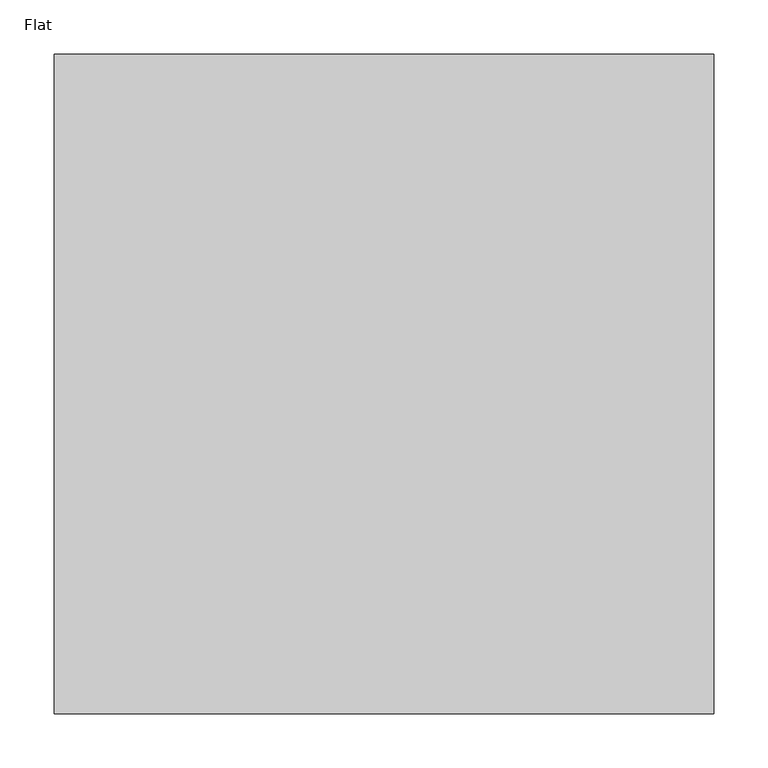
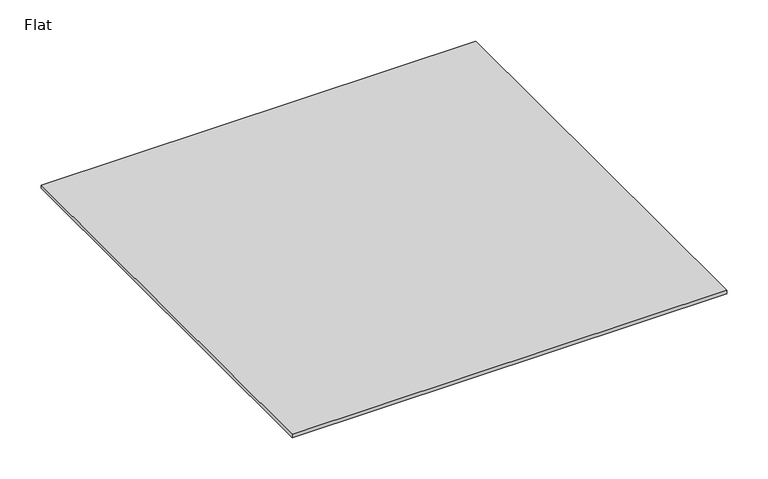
"""IFC4 building model written with IfcOpenShell, lengths in millimetres: proxy geometry, Ceiling_Tile-Qwel-Flat : Flat."""

from ifc_helpers import new_model, si_unit, origin, origin_with_axes, place, context, project, spatial, polyline, outline, extrude, source, transform, mapped, element, save


def flat_83722d0f(model_context):
    return source(origin(), model_context, "Body", "SweptSolid", [
        extrude(outline(polyline([(304.8, 304.8), (304.8, -304.8), (-304.8, -304.8), (-304.8, 304.8), (304.8, 304.8)])), origin_with_axes(), (0.0, 0.0, 1.0), 4.7625),
    ])


if __name__ == "__main__":
    model = new_model("IFC4")
    model_context = context("Model", 3, world=origin())
    ifc_project = project(units=[si_unit("LENGTHUNIT", "METRE", prefix="MILLI")], contexts=[model_context])
    site = spatial("IfcSite", under=ifc_project)
    building = spatial("IfcBuilding", under=site)
    placement = place(None, origin())
    flat_shape = flat_83722d0f(model_context)
    element("IfcBuildingElementProxy", 1, Name="Ceiling_Tile-Qwel-Flat : Flat", ObjectType="Ceiling_Tile-Qwel-Flat : Flat", at=placement, inside=building, context=model_context, shape_type="MappedRepresentation", body=[
        mapped(flat_shape, transform((0.0, 0.0, 0.0), x_axis=(1.0, 0.0, 0.0), y_axis=(0.0, 1.0, 0.0), z_axis=(0.0, 0.0, 1.0))),
    ])
    save(model, "model.ifc")
